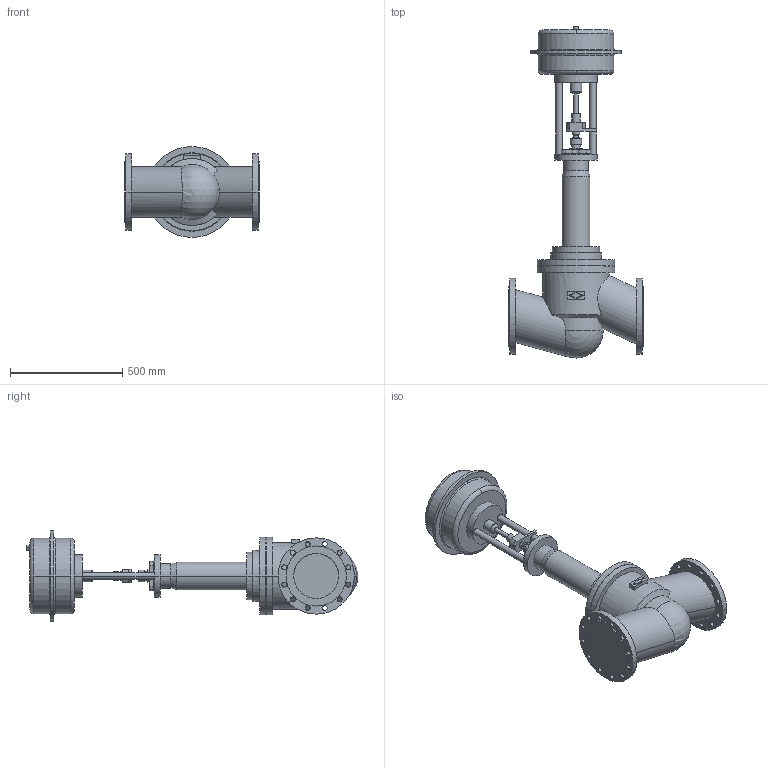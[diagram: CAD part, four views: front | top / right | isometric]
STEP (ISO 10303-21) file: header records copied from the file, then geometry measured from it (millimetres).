
FILE_DESCRIPTION( ( '' ), '1' );
FILE_NAME( 'C:/temp/WMCHECKOUT/c000006495.stp', '2017-02-13T06:57:57', ( '' ), ( '' ), ' ', ' ', ' ' );
FILE_SCHEMA( ( 'CONFIG_CONTROL_DESIGN' ) );
Length unit declared in the file: millimetre
Products named in the file (2): 1; 2
Bounding box: 600 x 1478.61 x 405 mm (x, y, z)
Volume: 71293950.1 mm3; surface area: 1997277.8 mm2
Topology: 2 solids, 2 shells, 231 faces, 576 edges, 382 vertices
Faces by surface type: cylinder 134, plane 80, torus 10, cone 6, sphere 1
Entity records: 7773 total; most frequent: CARTESIAN_POINT 1785, DIRECTION 1335, ORIENTED_EDGE 1148, EDGE_CURVE 574, AXIS2_PLACEMENT_3D 542, VERTEX_POINT 382, EDGE_LOOP 314, CIRCLE 305
